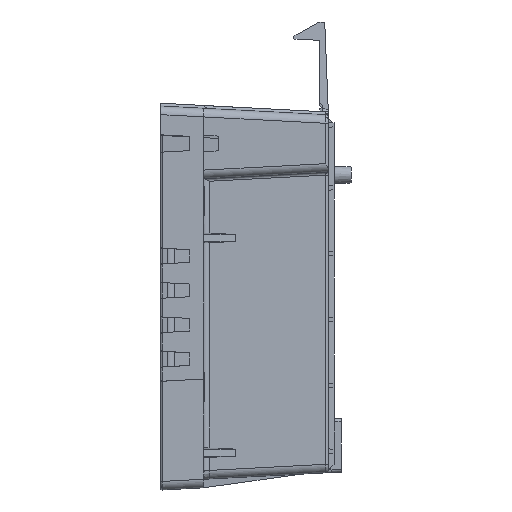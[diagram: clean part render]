
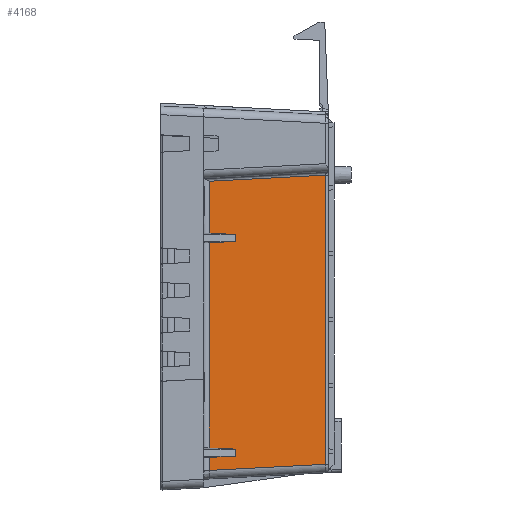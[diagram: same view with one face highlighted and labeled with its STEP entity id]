
A CAD part, left-side view. The second image highlights one B-rep face of the part: STEP entity #4168.
In plain terms, the highlighted planar face has unit normal (-0.999, -0.052, 0).
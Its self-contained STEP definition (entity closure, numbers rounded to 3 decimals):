
#189 = CARTESIAN_POINT ( 'NONE',  ( -55.55, 0.948, -25.048 ) ) ;
#521 = VECTOR ( 'NONE', #29594, 1000. ) ;
#1732 = LINE ( 'NONE', #27727, #17927 ) ;
#2418 = VECTOR ( 'NONE', #30996, 1000. ) ;
#2892 = VERTEX_POINT ( 'NONE', #32694 ) ;
#3445 = LINE ( 'NONE', #11691, #2418 ) ;
#3650 = LINE ( 'NONE', #10667, #28372 ) ;
#3955 = ORIENTED_EDGE ( 'NONE', *, *, #20905, .T. ) ;
#3964 = VERTEX_POINT ( 'NONE', #38378 ) ;
#4168 = ADVANCED_FACE ( 'NONE', ( #17699 ), #39240, .T. ) ;
#4179 = EDGE_CURVE ( 'NONE', #19993, #32368, #27250, .T. ) ;
#5114 = VECTOR ( 'NONE', #37762, 1000. ) ;
#5545 = VERTEX_POINT ( 'NONE', #29035 ) ;
#6222 = CARTESIAN_POINT ( 'NONE',  ( -57.204, 32.509, -120.75 ) ) ;
#6246 = ORIENTED_EDGE ( 'NONE', *, *, #16740, .T. ) ;
#7074 = CARTESIAN_POINT ( 'NONE',  ( -55.156, -6.568, -125.66 ) ) ;
#7094 = DIRECTION ( 'NONE',  ( 0., 0., -1. ) ) ;
#7164 = CARTESIAN_POINT ( 'NONE',  ( -57.68, 41.605, -123.615 ) ) ;
#7894 = LINE ( 'NONE', #32287, #8925 ) ;
#8285 = CARTESIAN_POINT ( 'NONE',  ( -55.599, 1.882, -46.98 ) ) ;
#8524 = ORIENTED_EDGE ( 'NONE', *, *, #32698, .T. ) ;
#8670 = CARTESIAN_POINT ( 'NONE',  ( -55.432, -1.303, -24.93 ) ) ;
#8925 = VECTOR ( 'NONE', #22712, 1000. ) ;
#9182 = LINE ( 'NONE', #20699, #26330 ) ;
#9529 = ORIENTED_EDGE ( 'NONE', *, *, #16571, .F. ) ;
#9818 = CARTESIAN_POINT ( 'NONE',  ( -57.204, 32.509, -48.25 ) ) ;
#10492 = CARTESIAN_POINT ( 'NONE',  ( -55.402, -1.877, -46.869 ) ) ;
#10667 = CARTESIAN_POINT ( 'NONE',  ( -57.68, 41.605, -131.28 ) ) ;
#11517 = LINE ( 'NONE', #16837, #38248 ) ;
#11691 = CARTESIAN_POINT ( 'NONE',  ( -55.756, 4.881, -121.86 ) ) ;
#12970 = VECTOR ( 'NONE', #20279, 1000. ) ;
#13885 = DIRECTION ( 'NONE',  ( 0., 0., -1. ) ) ;
#16232 = ORIENTED_EDGE ( 'NONE', *, *, #40081, .F. ) ;
#16571 = EDGE_CURVE ( 'NONE', #2892, #37471, #16583, .T. ) ;
#16583 = LINE ( 'NONE', #10492, #41331 ) ;
#16669 = DIRECTION ( 'NONE',  ( -0.999, -0.052, 0. ) ) ;
#16740 = EDGE_CURVE ( 'NONE', #32871, #23543, #11517, .T. ) ;
#16837 = CARTESIAN_POINT ( 'NONE',  ( -57.68, 41.605, -45.309 ) ) ;
#16960 = DIRECTION ( 'NONE',  ( 0.052, -0.998, 0.04 ) ) ;
#17068 = ORIENTED_EDGE ( 'NONE', *, *, #4179, .T. ) ;
#17436 = EDGE_CURVE ( 'NONE', #2892, #5545, #30098, .T. ) ;
#17585 = EDGE_CURVE ( 'NONE', #23543, #3964, #23077, .T. ) ;
#17699 = FACE_OUTER_BOUND ( 'NONE', #35300, .T. ) ;
#17927 = VECTOR ( 'NONE', #24522, 1000. ) ;
#18021 = EDGE_CURVE ( 'NONE', #18210, #32871, #33628, .T. ) ;
#18210 = VERTEX_POINT ( 'NONE', #189 ) ;
#18473 = VECTOR ( 'NONE', #27952, 1000. ) ;
#19276 = CARTESIAN_POINT ( 'NONE',  ( -57.68, 41.605, -27.179 ) ) ;
#19857 = ORIENTED_EDGE ( 'NONE', *, *, #25381, .T. ) ;
#19904 = CARTESIAN_POINT ( 'NONE',  ( -55.5, 0., 0. ) ) ;
#19993 = VERTEX_POINT ( 'NONE', #30758 ) ;
#20250 = ORIENTED_EDGE ( 'NONE', *, *, #18021, .T. ) ;
#20279 = DIRECTION ( 'NONE',  ( 0., 0., -1. ) ) ;
#20602 = EDGE_CURVE ( 'NONE', #3964, #37471, #39477, .T. ) ;
#20699 = CARTESIAN_POINT ( 'NONE',  ( -55.55, 0.948, -24. ) ) ;
#20905 = EDGE_CURVE ( 'NONE', #32368, #18210, #9182, .T. ) ;
#21026 = CARTESIAN_POINT ( 'NONE',  ( -55.55, 0.948, -126.054 ) ) ;
#21101 = DIRECTION ( 'NONE',  ( 0.052, -0.998, -0.04 ) ) ;
#22476 = CARTESIAN_POINT ( 'NONE',  ( -57.68, 41.605, -45.385 ) ) ;
#22712 = DIRECTION ( 'NONE',  ( 0., 0., -1. ) ) ;
#23077 = LINE ( 'NONE', #8285, #41254 ) ;
#23164 = DIRECTION ( 'NONE',  ( 0.052, -0.999, 0. ) ) ;
#23543 = VERTEX_POINT ( 'NONE', #22476 ) ;
#23808 = DIRECTION ( 'NONE',  ( 0., 0., 1. ) ) ;
#24522 = DIRECTION ( 'NONE',  ( 0.052, -0.998, 0.04 ) ) ;
#25381 = EDGE_CURVE ( 'NONE', #5545, #27311, #3445, .T. ) ;
#26330 = VECTOR ( 'NONE', #23808, 1000. ) ;
#27250 = LINE ( 'NONE', #7074, #521 ) ;
#27311 = VERTEX_POINT ( 'NONE', #6222 ) ;
#27727 = CARTESIAN_POINT ( 'NONE',  ( -55.244, -4.876, -121.748 ) ) ;
#27952 = DIRECTION ( 'NONE',  ( -0.052, 0.997, -0.052 ) ) ;
#28024 = VERTEX_POINT ( 'NONE', #7164 ) ;
#28372 = VECTOR ( 'NONE', #13885, 1000. ) ;
#28429 = ORIENTED_EDGE ( 'NONE', *, *, #36592, .T. ) ;
#29035 = CARTESIAN_POINT ( 'NONE',  ( -57.68, 41.605, -120.385 ) ) ;
#29397 = VERTEX_POINT ( 'NONE', #40750 ) ;
#29594 = DIRECTION ( 'NONE',  ( 0.052, -0.997, 0.052 ) ) ;
#30098 = LINE ( 'NONE', #39621, #12970 ) ;
#30758 = CARTESIAN_POINT ( 'NONE',  ( -57.68, 41.605, -128.185 ) ) ;
#30996 = DIRECTION ( 'NONE',  ( 0.052, -0.998, -0.04 ) ) ;
#31322 = ORIENTED_EDGE ( 'NONE', *, *, #17585, .T. ) ;
#31467 = ORIENTED_EDGE ( 'NONE', *, *, #17436, .T. ) ;
#32287 = CARTESIAN_POINT ( 'NONE',  ( -57.204, 32.509, 0. ) ) ;
#32368 = VERTEX_POINT ( 'NONE', #21026 ) ;
#32694 = CARTESIAN_POINT ( 'NONE',  ( -57.68, 41.605, -48.615 ) ) ;
#32698 = EDGE_CURVE ( 'NONE', #27311, #29397, #7894, .T. ) ;
#32871 = VERTEX_POINT ( 'NONE', #19276 ) ;
#33628 = LINE ( 'NONE', #8670, #18473 ) ;
#33682 = ORIENTED_EDGE ( 'NONE', *, *, #20602, .T. ) ;
#34986 = AXIS2_PLACEMENT_3D ( 'NONE', #19904, #16669, #23164 ) ;
#35300 = EDGE_LOOP ( 'NONE', ( #3955, #20250, #6246, #31322, #33682, #9529, #31467, #19857, #8524, #16232, #28429, #17068 ) ) ;
#36592 = EDGE_CURVE ( 'NONE', #28024, #19993, #3650, .T. ) ;
#37471 = VERTEX_POINT ( 'NONE', #9818 ) ;
#37762 = DIRECTION ( 'NONE',  ( 0., 0., -1. ) ) ;
#38248 = VECTOR ( 'NONE', #7094, 1000. ) ;
#38378 = CARTESIAN_POINT ( 'NONE',  ( -57.204, 32.509, -45.75 ) ) ;
#39240 = PLANE ( 'NONE',  #34986 ) ;
#39477 = LINE ( 'NONE', #40633, #5114 ) ;
#39621 = CARTESIAN_POINT ( 'NONE',  ( -57.68, 41.605, -120.309 ) ) ;
#40081 = EDGE_CURVE ( 'NONE', #28024, #29397, #1732, .T. ) ;
#40633 = CARTESIAN_POINT ( 'NONE',  ( -57.204, 32.509, 0. ) ) ;
#40750 = CARTESIAN_POINT ( 'NONE',  ( -57.204, 32.509, -123.25 ) ) ;
#41254 = VECTOR ( 'NONE', #21101, 1000. ) ;
#41331 = VECTOR ( 'NONE', #16960, 1000. ) ;
